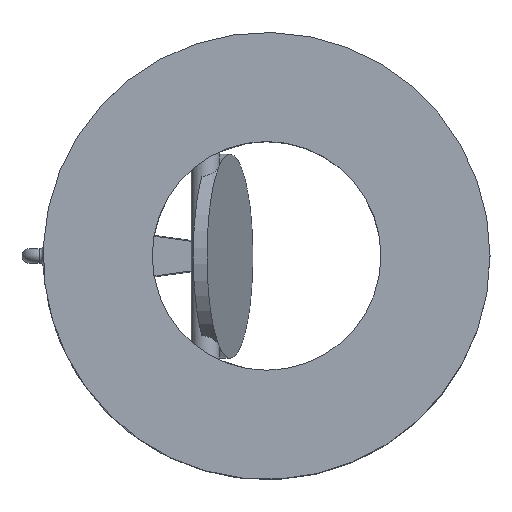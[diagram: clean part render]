
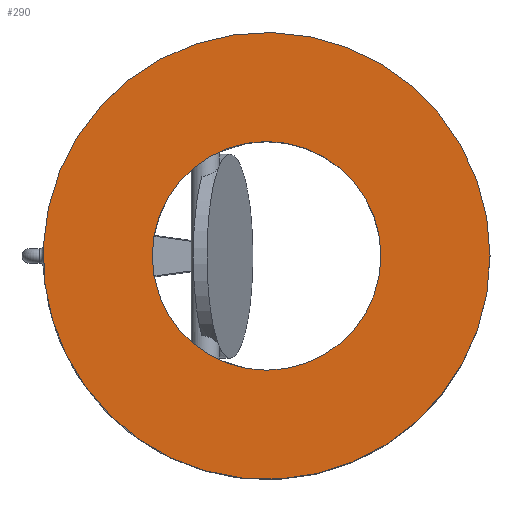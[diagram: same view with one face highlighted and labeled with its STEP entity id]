
A CAD part, top view. The second image highlights one B-rep face of the part: STEP entity #290.
In plain terms, the highlighted planar face has unit normal (0, 0, 1).
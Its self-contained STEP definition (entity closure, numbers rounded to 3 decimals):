
#290 = ADVANCED_FACE( '', ( #791, #792 ), #793, .F. );
#791 = FACE_OUTER_BOUND( '', #2089, .T. );
#792 = FACE_BOUND( '', #2090, .T. );
#793 = PLANE( '', #2091 );
#2089 = EDGE_LOOP( '', ( #7445 ) );
#2090 = EDGE_LOOP( '', ( #7446 ) );
#2091 = AXIS2_PLACEMENT_3D( '', #7447, #7448, #7449 );
#7445 = ORIENTED_EDGE( '', *, *, #9220, .F. );
#7446 = ORIENTED_EDGE( '', *, *, #9221, .F. );
#7447 = CARTESIAN_POINT( '', ( 0., 0., 23. ) );
#7448 = DIRECTION( '', ( 0., 0., -1. ) );
#7449 = DIRECTION( '', ( -1., 0., 0. ) );
#9220 = EDGE_CURVE( '', #10074, #10074, #10075, .T. );
#9221 = EDGE_CURVE( '', #10076, #10076, #10077, .T. );
#10074 = VERTEX_POINT( '', #11765 );
#10075 = CIRCLE( '', #11766, 63.5 );
#10076 = VERTEX_POINT( '', #11767 );
#10077 = CIRCLE( '', #11768, 32.5 );
#11765 = CARTESIAN_POINT( '', ( 63.5, 0., 23. ) );
#11766 = AXIS2_PLACEMENT_3D( '', #17766, #17767, #17768 );
#11767 = CARTESIAN_POINT( '', ( 0., -32.5, 23. ) );
#11768 = AXIS2_PLACEMENT_3D( '', #17769, #17770, #17771 );
#17766 = CARTESIAN_POINT( '', ( 0., 0., 23. ) );
#17767 = DIRECTION( '', ( 0., 0., -1. ) );
#17768 = DIRECTION( '', ( 1., 0., 0. ) );
#17769 = CARTESIAN_POINT( '', ( 0., 0., 23. ) );
#17770 = DIRECTION( '', ( 0., 0., 1. ) );
#17771 = DIRECTION( '', ( 0., -1., 0. ) );
